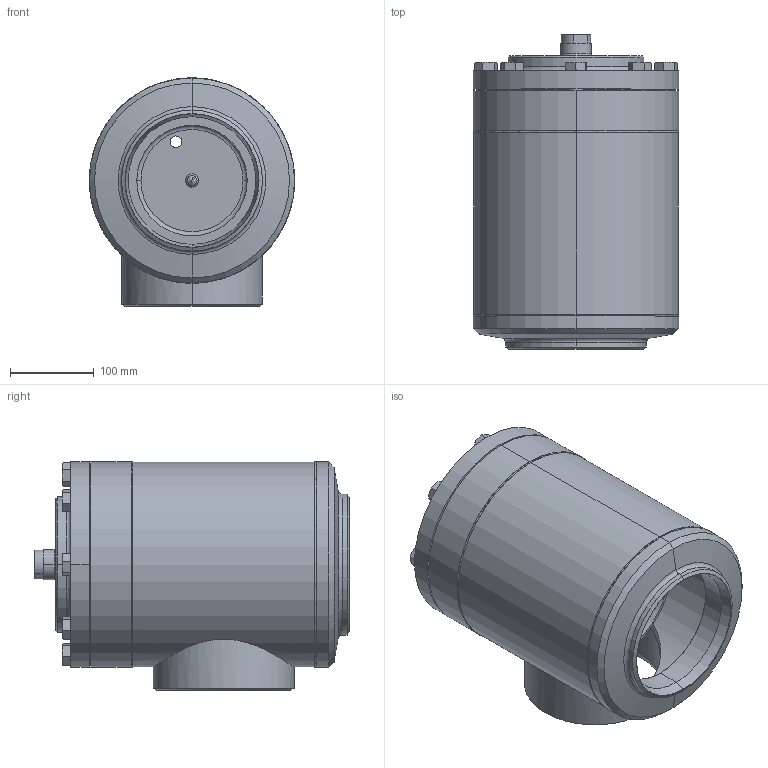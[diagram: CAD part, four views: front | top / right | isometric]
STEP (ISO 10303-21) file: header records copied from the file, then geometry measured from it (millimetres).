
FILE_DESCRIPTION (( 'STEP AP214' ), '1' );
FILE_NAME ('RVD4280xC21A5A0AA00_DN150_1-3bar.STEP', '2010-06-16T11:48:35', ( 'Eckhard Grams' ), ( 'AWP Kälte Klima Armaturen GmbH' ), 'SwSTEP 2.0', 'SolidWorks 2002296', '' );
FILE_SCHEMA (( 'AUTOMOTIVE_DESIGN' ));
Length unit declared in the file: millimetre
Products named in the file (12): RVD4280xC21A5A0AA00_DN150_1-3bar; RVD42700B21_Deck+Schr-DN150_1-3bar_Standard; Deckel42700B21-DN150_1-3bar_PS25_Standard; Sechskantschraube-DIN933_M16x 45; Geh,kpl 16300E21-5030AA1_DN150_R1_Standard; Boden16300-DN150_Standard; Gehäuse16300-DN150_Standard; Kopfstück16300-DN150_Standard; Rohrstutzen-A16300a-21_R1_Standard; bead Geh,kpl 16400-21-2_Standard; bead Geh,kpl 16400-21-1_Standard; Verschlußschr4270xE21-DN150_1-3bar_M16x101_2bar
Assembly tree (18 placements, depth 3):
  RVD4280xC21A5A0AA00_DN150_1-3bar
    Geh,kpl 16300E21-5030AA1_DN150_R1_Standard
      Rohrstutzen-A16300a-21_R1_Standard
      Kopfstück16300-DN150_Standard
      Boden16300-DN150_Standard
      Gehäuse16300-DN150_Standard
      bead Geh,kpl 16400-21-2_Standard
      bead Geh,kpl 16400-21-1_Standard
    Verschlußschr4270xE21-DN150_1-3bar_M16x101_2bar
    RVD42700B21_Deck+Schr-DN150_1-3bar_Standard
      Sechskantschraube-DIN933_M16x 45  x8
      Deckel42700B21-DN150_1-3bar_PS25_Standard
Bounding box: 245.28 x 375.5 x 272.64 mm (x, y, z)
Volume: 5612989.3 mm3; surface area: 1037302.4 mm2
Topology: 16 solids, 16 shells, 332 faces, 708 edges, 423 vertices
Faces by surface type: cone 132, plane 99, cylinder 85, torus 8, bspline 8
Entity records: 6724 total; most frequent: CARTESIAN_POINT 2529, DIRECTION 802, ORIENTED_EDGE 684, AXIS2_PLACEMENT_3D 348, EDGE_CURVE 342, VERTEX_POINT 213, EDGE_LOOP 201, CIRCLE 176
